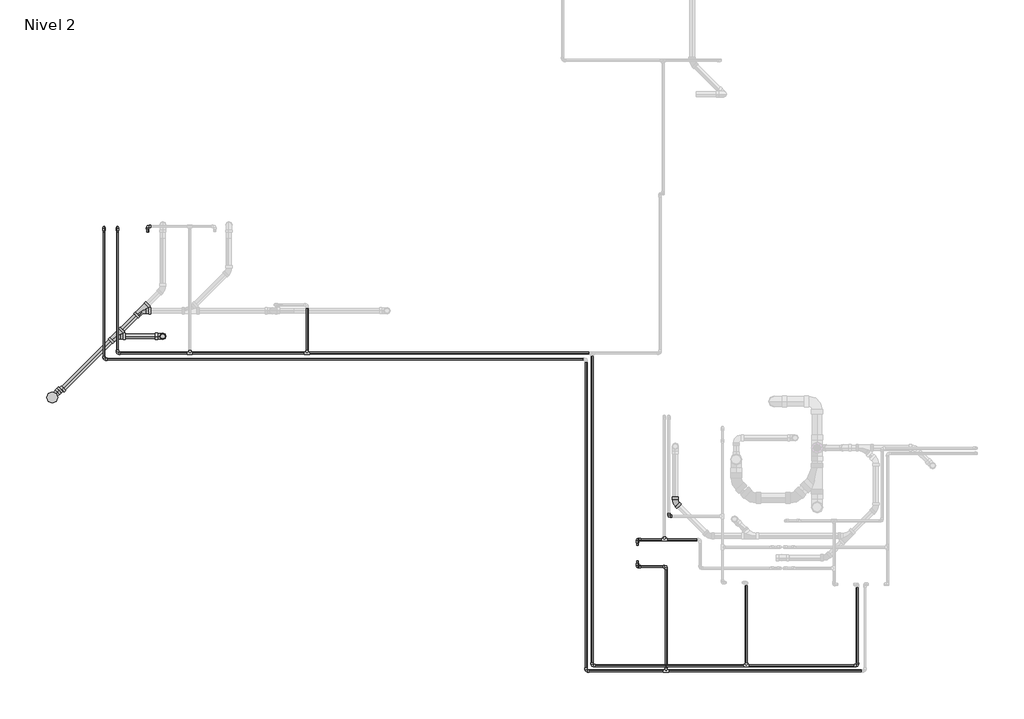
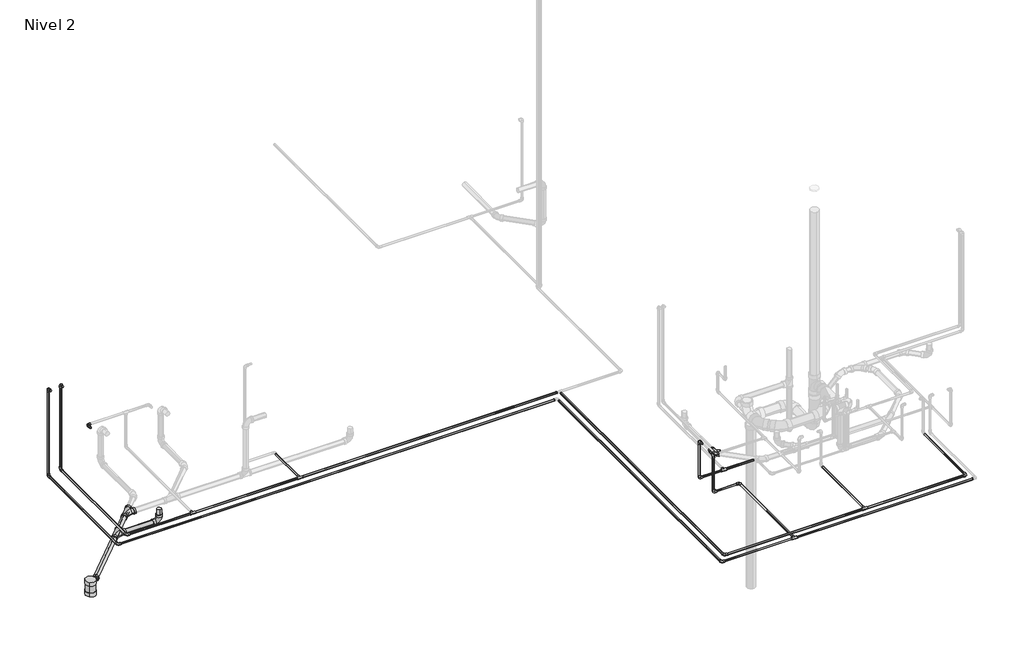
# One storey, part 1 of 9: 32 pipe segments, 27 pipe fittings.
"""IFC4 building model written with IfcOpenShell, lengths in millimetres."""

from ifc_helpers import new_model, si_unit, point, frame, frame_2d, origin, place, context, project, spatial, circle_curve, trimmed, segment, composite_curve, outline, extrude, transform, mapped, element, save
from components import pipe_fitting_ab418b84, pipe_fitting_0163322b, pipe_fitting_f7ed332b, m_codo_pvc_serie_40_9ad74631, m_codo_pvc_serie_40_dwv1_5c0ec739, m_codo_pvc_serie_40_dwv1_6f1a2495, m_reductor_pvc_serie_40_dwv1_ff30086d

model = new_model("IFC4")

# Units and contexts
model_context = context("Model", 3, world=origin())
ifc_project = project(units=[si_unit("LENGTHUNIT", "METRE", prefix="MILLI")], contexts=[model_context])

# Site, building, storey
site = spatial("IfcSite", under=ifc_project)
building = spatial("IfcBuilding", under=site)
storey = spatial("IfcBuildingStorey", under=building, Name="Nivel 2", Elevation=2800.0)

# Pipe fittings
placement = place(None, origin())
pipe_fitting_shape = pipe_fitting_ab418b84(model_context)
element("IfcPipeFitting", 1, ObjectType="M_Te - PVC - Serie 40 : Estándar", at=placement, inside=storey, context=model_context, shape_type="MappedRepresentation", body=[
    mapped(pipe_fitting_shape, transform((1725.1353284, 7617.0181394, 2750.0), x_axis=(1.0, 0.0, 0.0), y_axis=(0.0, -1.0, 0.0), z_axis=(0.0, 0.0, -1.0))),
])
element("IfcPipeFitting", 2, ObjectType="M_Te - PVC - Serie 40 : Estándar", at=placement, inside=storey, context=model_context, shape_type="MappedRepresentation", body=[
    mapped(pipe_fitting_shape, transform((411.6630441, 7617.0181394, 2750.0), x_axis=(1.0, 0.0, 0.0), y_axis=(0.0, -1.0, 0.0), z_axis=(0.0, 0.0, -1.0))),
])
element("IfcPipeFitting", 3, ObjectType="M_Te - PVC - Serie 40 : Estándar", at=placement, inside=storey, context=model_context, shape_type="MappedRepresentation", body=[
    mapped(pipe_fitting_shape, transform((6640.0882468, 4117.0181394, 2750.0), x_axis=(-1.0, 0.0, 0.0), y_axis=(0.0, -1.0, 0.0), z_axis=(0.0, 0.0, 1.0))),
])
element("IfcPipeFitting", 4, ObjectType="M_Te - PVC - Serie 40 : Estándar", at=placement, inside=storey, context=model_context, shape_type="MappedRepresentation", body=[
    mapped(pipe_fitting_shape, transform((5743.2442783, 4058.5261191, 2720.0), x_axis=(-1.0, 0.0, 0.0), y_axis=(0.0, -1.0, 0.0), z_axis=(0.0, 0.0, 1.0))),
])
element("IfcPipeFitting", 5, ObjectType="M_Te - PVC - Serie 40 : Estándar", at=placement, inside=storey, context=model_context, shape_type="MappedRepresentation", body=[
    mapped(pipe_fitting_shape, transform((5723.2442783, 5526.6215833, 2720.0), x_axis=(-1.0, 0.0, 0.0), y_axis=(0.0, -1.0, 0.0), z_axis=(0.0, 0.0, 1.0))),
])
pipe_fitting_2_shape = pipe_fitting_0163322b(model_context)
element("IfcPipeFitting", 6, ObjectType="M_Sanitario con te de reducción - PVC - Serie 40 - DWV : Estándar", at=placement, inside=storey, context=model_context, shape_type="MappedRepresentation", body=[
    mapped(pipe_fitting_2_shape, transform((-133.7971122, 8091.4220022, 2650.0), x_axis=(0.7071067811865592, 0.7071067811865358, 0.0), y_axis=(-0.7071067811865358, 0.7071067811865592, 0.0), z_axis=(0.0, 0.0, 1.0))),
])
element("IfcPipeFitting", 7, ObjectType="M_Sanitario con te de reducción - PVC - Serie 40 - DWV : Estándar", at=placement, inside=storey, context=model_context, shape_type="MappedRepresentation", body=[
    mapped(pipe_fitting_2_shape, transform((-420.2517933, 7804.9673212, 2650.0), x_axis=(0.707106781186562, 0.707106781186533, 0.0), y_axis=(-0.707106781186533, 0.707106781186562, 0.0), z_axis=(0.0, 0.0, 1.0))),
])
pipe_fitting_3_shape = pipe_fitting_f7ed332b(model_context)
element("IfcPipeFitting", 8, ObjectType="M_Sanitario con te de reducción - PVC - Serie 40 - DWV : Estándar", at=placement, inside=storey, context=model_context, shape_type="MappedRepresentation", body=[
    mapped(pipe_fitting_3_shape, transform((-1128.3876566, 7119.3043981, 2650.0), x_axis=(0.0, 0.0, 1.0), y_axis=(-0.7071067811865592, -0.7071067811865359, 0.0), z_axis=(0.7071067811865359, -0.7071067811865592, 0.0))),
])
m_codo_pvc_serie_40_shape = m_codo_pvc_serie_40_9ad74631(model_context)
element("IfcPipeFitting", 9, ObjectType="M_Codo - PVC - Serie 40 : Estándar", at=placement, inside=storey, context=model_context, shape_type="MappedRepresentation", body=[
    mapped(m_codo_pvc_serie_40_shape, transform((-397.4678009, 7617.0181394, 2750.0), x_axis=(0.0, -1.0, 0.0), y_axis=(1.0, 0.0, 0.0), z_axis=(0.0, 0.0, 1.0))),
])
element("IfcPipeFitting", 10, ObjectType="M_Codo - PVC - Serie 40 : Estándar", at=placement, inside=storey, context=model_context, shape_type="MappedRepresentation", body=[
    mapped(m_codo_pvc_serie_40_shape, transform((-58.7971122, 9037.0181394, 3200.0), x_axis=(-1.0, 0.0, 0.0), y_axis=(0.0, -1.0, 0.0), z_axis=(0.0, 0.0, 1.0))),
])
element("IfcPipeFitting", 11, ObjectType="M_Codo - PVC - Serie 40 : Estándar", at=placement, inside=storey, context=model_context, shape_type="MappedRepresentation", body=[
    mapped(m_codo_pvc_serie_40_shape, transform((4915.0072403, 4117.0181394, 2750.0), x_axis=(0.0, -1.0, 0.0), y_axis=(1.0, 0.0, 0.0), z_axis=(0.0, 0.0, 1.0))),
])
element("IfcPipeFitting", 12, ObjectType="M_Codo - PVC - Serie 40 : Estándar", at=placement, inside=storey, context=model_context, shape_type="MappedRepresentation", body=[
    mapped(m_codo_pvc_serie_40_shape, transform((7882.9224126, 4117.0181394, 2750.0), x_axis=(1.0, 0.0, 0.0), y_axis=(0.0, 1.0, 0.0), z_axis=(0.0, 0.0, 1.0))),
])
element("IfcPipeFitting", 13, ObjectType="M_Codo - PVC - Serie 40 : Estándar", at=placement, inside=storey, context=model_context, shape_type="MappedRepresentation", body=[
    mapped(m_codo_pvc_serie_40_shape, transform((5773.4849581, 5788.5620607, 2750.0), x_axis=(0.0, -1.0, 0.0), y_axis=(1.0, 0.0, 0.0), z_axis=(0.0, 0.0, 1.0))),
])
element("IfcPipeFitting", 14, ObjectType="M_Codo - PVC - Serie 40 : Estándar", at=placement, inside=storey, context=model_context, shape_type="MappedRepresentation", body=[
    mapped(m_codo_pvc_serie_40_shape, transform((4848.2736664, 4058.5261191, 2720.0), x_axis=(0.0, -1.0, 0.0), y_axis=(1.0, 0.0, 0.0), z_axis=(0.0, 0.0, 1.0))),
])
element("IfcPipeFitting", 15, ObjectType="M_Codo - PVC - Serie 40 : Estándar", at=placement, inside=storey, context=model_context, shape_type="MappedRepresentation", body=[
    mapped(m_codo_pvc_serie_40_shape, transform((5743.2442783, 5226.6215833, 2720.0), x_axis=(0.0, 1.0, 0.0), y_axis=(-1.0, 0.0, 0.0), z_axis=(0.0, 0.0, 1.0))),
])
element("IfcPipeFitting", 16, ObjectType="M_Codo - PVC - Serie 40 : Estándar", at=placement, inside=storey, context=model_context, shape_type="MappedRepresentation", body=[
    mapped(m_codo_pvc_serie_40_shape, transform((5423.2442783, 5226.6215833, 2720.0), x_axis=(-1.0, 0.0, 0.0), y_axis=(0.0, 0.0, 1.0), z_axis=(0.0, 1.0, 0.0))),
])
element("IfcPipeFitting", 17, ObjectType="M_Codo - PVC - Serie 40 : Estándar", at=placement, inside=storey, context=model_context, shape_type="MappedRepresentation", body=[
    mapped(m_codo_pvc_serie_40_shape, transform((5423.2442783, 5226.6215833, 3200.0), x_axis=(0.0, 0.0, 1.0), y_axis=(0.0, 1.0, 0.0), z_axis=(-1.0, 0.0, 0.0))),
])
element("IfcPipeFitting", 18, ObjectType="M_Codo - PVC - Serie 40 : Estándar", at=placement, inside=storey, context=model_context, shape_type="MappedRepresentation", body=[
    mapped(m_codo_pvc_serie_40_shape, transform((5423.2442783, 5526.6215833, 3200.0), x_axis=(0.0, 1.0, 0.0), y_axis=(0.0, 0.0, -1.0), z_axis=(-1.0, 0.0, 0.0))),
])
element("IfcPipeFitting", 19, ObjectType="M_Codo - PVC - Serie 40 : Estándar", at=placement, inside=storey, context=model_context, shape_type="MappedRepresentation", body=[
    mapped(m_codo_pvc_serie_40_shape, transform((5423.2442783, 5526.6215833, 2720.0), x_axis=(0.0, 0.0, -1.0), y_axis=(1.0, 0.0, 0.0), z_axis=(0.0, -1.0, 0.0))),
])
element("IfcPipeFitting", 20, ObjectType="M_Codo - PVC - Serie 40 : Estándar", at=placement, inside=storey, context=model_context, shape_type="MappedRepresentation", body=[
    mapped(m_codo_pvc_serie_40_shape, transform((-397.4678009, 9023.6516968, 3850.0), x_axis=(0.0, 1.0, 0.0), y_axis=(0.0, 0.0, -1.0), z_axis=(-1.0, 0.0, 0.0))),
])
element("IfcPipeFitting", 21, ObjectType="M_Codo - PVC - Serie 40 : Estándar", at=placement, inside=storey, context=model_context, shape_type="MappedRepresentation", body=[
    mapped(m_codo_pvc_serie_40_shape, transform((-547.4678009, 9023.6516968, 3850.0), x_axis=(0.0, 1.0, 0.0), y_axis=(0.0, 0.0, -1.0), z_axis=(-1.0, 0.0, 0.0))),
])
element("IfcPipeFitting", 22, ObjectType="M_Codo - PVC - Serie 40 : Estándar", at=placement, inside=storey, context=model_context, shape_type="MappedRepresentation", body=[
    mapped(m_codo_pvc_serie_40_shape, transform((-547.4678009, 9023.6516968, 2720.0), x_axis=(0.0, 0.0, -1.0), y_axis=(0.0, -1.0, 0.0), z_axis=(-1.0, 0.0, 0.0))),
])
element("IfcPipeFitting", 23, ObjectType="M_Codo - PVC - Serie 40 : Estándar", at=placement, inside=storey, context=model_context, shape_type="MappedRepresentation", body=[
    mapped(m_codo_pvc_serie_40_shape, transform((-547.4678009, 7548.5261191, 2720.0), x_axis=(0.0, -1.0, 0.0), y_axis=(1.0, 0.0, 0.0), z_axis=(0.0, 0.0, 1.0))),
])
element("IfcPipeFitting", 24, ObjectType="M_Codo - PVC - Serie 40 : Estándar", at=placement, inside=storey, context=model_context, shape_type="MappedRepresentation", body=[
    mapped(m_codo_pvc_serie_40_shape, transform((-397.4678009, 9023.6516968, 2750.0), x_axis=(0.0, 0.0, -1.0), y_axis=(0.0, -1.0, 0.0), z_axis=(-1.0, 0.0, 0.0))),
])
m_codo_pvc_serie_40_dwv1_shape = m_codo_pvc_serie_40_dwv1_5c0ec739(model_context)
element("IfcPipeFitting", 25, ObjectType="M_Codo - PVC - Serie 40 - DWV1 : Estándar 2", at=placement, inside=storey, context=model_context, shape_type="MappedRepresentation", body=[
    mapped(m_codo_pvc_serie_40_dwv1_shape, transform((109.5958692, 7804.9673212, 2650.0), x_axis=(1.0, 0.0, 0.0), y_axis=(0.0, 0.0, 1.0), z_axis=(0.0, -1.0, 0.0))),
])
m_codo_pvc_serie_40_dwv1_2_shape = m_codo_pvc_serie_40_dwv1_6f1a2495(model_context)
element("IfcPipeFitting", 26, ObjectType="M_Codo - PVC - Serie 40 - DWV1 : Estándar 2", at=placement, inside=storey, context=model_context, shape_type="MappedRepresentation", body=[
    mapped(m_codo_pvc_serie_40_dwv1_2_shape, transform((5845.3355737, 5944.0282832, 2650.0), x_axis=(0.0, -1.0, 0.0), y_axis=(1.0, 0.0, 0.0), z_axis=(0.0, 0.0, 1.0))),
])
m_reductor_pvc_serie_40_dwv1_shape = m_reductor_pvc_serie_40_dwv1_ff30086d(model_context)
element("IfcPipeFitting", 27, ObjectType="M_Reductor - PVC - Serie 40 - DWV1 : Estándar 2", at=placement, inside=storey, context=model_context, shape_type="MappedRepresentation", body=[
    mapped(m_reductor_pvc_serie_40_dwv1_shape, transform((-1051.5138579, 7196.1781968, 2650.0), x_axis=(0.7071067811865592, 0.7071067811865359, 0.0), y_axis=(-0.7071067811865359, 0.7071067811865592, 0.0), z_axis=(0.0, 0.0, 1.0))),
])

# Pipe segments
element("IfcPipeSegment", 28, ObjectType="Tuberia PVC Agua Fria", at=placement, inside=storey, context=model_context, shape_type="SweptSolid", body=[
    extrude(outline(composite_curve([segment(trimmed(circle_curve(frame_2d((2750.0, 1725.1353284)), 10.31875), [point((2750.0, 1735.4540784))], [point((2760.31875, 1725.1353284))], False, "CARTESIAN"), True, "CONTINUOUS"), segment(trimmed(circle_curve(frame_2d((2750.0, 1725.1353284)), 10.31875), [point((2760.31875, 1725.1353284))], [point((2750.0, 1714.8165784))], False, "CARTESIAN"), True, "CONTINUOUS"), segment(trimmed(circle_curve(frame_2d((2750.0, 1725.1353284)), 10.31875), [point((2750.0, 1714.8165784))], [point((2739.68125, 1725.1353284))], False, "CARTESIAN"), True, "CONTINUOUS"), segment(trimmed(circle_curve(frame_2d((2750.0, 1725.1353284)), 10.31875), [point((2739.68125, 1725.1353284))], [point((2750.0, 1735.4540784))], False, "CARTESIAN"), True, "CONTINUOUS")], self_intersect=False)), frame((0.0, 7647.4782956, 0.0), z_axis=(0.0, 1.0, 0.0), x_axis=(0.0, 0.0, 1.0)), (0.0, 0.0, 1.0), 476.1388438),
])
element("IfcPipeSegment", 29, ObjectType="Tuberia PVC Agua Fria", at=placement, inside=storey, context=model_context, shape_type="SweptSolid", body=[
    extrude(outline(composite_curve([segment(trimmed(circle_curve(frame_2d((7617.0181394, 2750.0)), 10.31875), [point((7627.3368894, 2750.0))], [point((7617.0181394, 2739.68125))], False, "CARTESIAN"), True, "CONTINUOUS"), segment(trimmed(circle_curve(frame_2d((7617.0181394, 2750.0)), 10.31875), [point((7617.0181394, 2739.68125))], [point((7606.6993894, 2750.0))], False, "CARTESIAN"), True, "CONTINUOUS"), segment(trimmed(circle_curve(frame_2d((7617.0181394, 2750.0)), 10.31875), [point((7606.6993894, 2750.0))], [point((7617.0181394, 2760.31875))], False, "CARTESIAN"), True, "CONTINUOUS"), segment(trimmed(circle_curve(frame_2d((7617.0181394, 2750.0)), 10.31875), [point((7617.0181394, 2760.31875))], [point((7627.3368894, 2750.0))], False, "CARTESIAN"), True, "CONTINUOUS")], self_intersect=False)), frame((1755.5954847, 0.0, 0.0), z_axis=(1.0, 0.0, 0.0), x_axis=(0.0, 1.0, 0.0)), (0.0, 0.0, 1.0), 3128.9515994),
])
element("IfcPipeSegment", 30, ObjectType="Tuberia PVC Agua Fria", at=placement, inside=storey, context=model_context, shape_type="SweptSolid", body=[
    extrude(outline(composite_curve([segment(trimmed(circle_curve(frame_2d((7617.0181394, 2750.0)), 10.31875), [point((7627.3368894, 2750.0))], [point((7617.0181394, 2739.68125))], False, "CARTESIAN"), True, "CONTINUOUS"), segment(trimmed(circle_curve(frame_2d((7617.0181394, 2750.0)), 10.31875), [point((7617.0181394, 2739.68125))], [point((7606.6993894, 2750.0))], False, "CARTESIAN"), True, "CONTINUOUS"), segment(trimmed(circle_curve(frame_2d((7617.0181394, 2750.0)), 10.31875), [point((7606.6993894, 2750.0))], [point((7617.0181394, 2760.31875))], False, "CARTESIAN"), True, "CONTINUOUS"), segment(trimmed(circle_curve(frame_2d((7617.0181394, 2750.0)), 10.31875), [point((7617.0181394, 2760.31875))], [point((7627.3368894, 2750.0))], False, "CARTESIAN"), True, "CONTINUOUS")], self_intersect=False)), frame((-364.0668009, 0.0, 0.0), z_axis=(1.0, 0.0, 0.0), x_axis=(0.0, 1.0, 0.0)), (0.0, 0.0, 1.0), 745.2696887),
])
element("IfcPipeSegment", 31, ObjectType="Tuberia PVC Agua Fria", at=placement, inside=storey, context=model_context, shape_type="SweptSolid", body=[
    extrude(outline(composite_curve([segment(trimmed(circle_curve(frame_2d((7617.0181394, 2750.0)), 10.31875), [point((7627.3368894, 2750.0))], [point((7617.0181394, 2739.68125))], False, "CARTESIAN"), True, "CONTINUOUS"), segment(trimmed(circle_curve(frame_2d((7617.0181394, 2750.0)), 10.31875), [point((7617.0181394, 2739.68125))], [point((7606.6993894, 2750.0))], False, "CARTESIAN"), True, "CONTINUOUS"), segment(trimmed(circle_curve(frame_2d((7617.0181394, 2750.0)), 10.31875), [point((7606.6993894, 2750.0))], [point((7617.0181394, 2760.31875))], False, "CARTESIAN"), True, "CONTINUOUS"), segment(trimmed(circle_curve(frame_2d((7617.0181394, 2750.0)), 10.31875), [point((7617.0181394, 2760.31875))], [point((7627.3368894, 2750.0))], False, "CARTESIAN"), True, "CONTINUOUS")], self_intersect=False)), frame((442.1232003, 0.0, 0.0), z_axis=(1.0, 0.0, 0.0), x_axis=(0.0, 1.0, 0.0)), (0.0, 0.0, 1.0), 1252.5519718),
])
element("IfcPipeSegment", 32, ObjectType="Tuberia PVC Agua Fria", at=placement, inside=storey, context=model_context, shape_type="SweptSolid", body=[
    extrude(outline(composite_curve([segment(trimmed(circle_curve(frame_2d((3200.0, -58.7971122)), 10.31875), [point((3200.0, -69.1158622))], [point((3189.68125, -58.7971122))], False, "CARTESIAN"), True, "CONTINUOUS"), segment(trimmed(circle_curve(frame_2d((3200.0, -58.7971122)), 10.31875), [point((3189.68125, -58.7971122))], [point((3200.0, -48.4783622))], False, "CARTESIAN"), True, "CONTINUOUS"), segment(trimmed(circle_curve(frame_2d((3200.0, -58.7971122)), 10.31875), [point((3200.0, -48.4783622))], [point((3210.31875, -58.7971122))], False, "CARTESIAN"), True, "CONTINUOUS"), segment(trimmed(circle_curve(frame_2d((3200.0, -58.7971122)), 10.31875), [point((3210.31875, -58.7971122))], [point((3200.0, -69.1158622))], False, "CARTESIAN"), True, "CONTINUOUS")], self_intersect=False)), frame((0.0, 8972.0181394, 0.0), z_axis=(0.0, 1.0, 0.0), x_axis=(0.0, 0.0, 1.0)), (0.0, 0.0, 1.0), 31.599),
])
element("IfcPipeSegment", 33, ObjectType="Tuberia PVC Agua Fria", at=placement, inside=storey, context=model_context, shape_type="SweptSolid", body=[
    extrude(outline(composite_curve([segment(trimmed(circle_curve(frame_2d((2750.0, 4915.0072403)), 10.31875), [point((2750.0, 4904.6884903))], [point((2739.68125, 4915.0072403))], False, "CARTESIAN"), True, "CONTINUOUS"), segment(trimmed(circle_curve(frame_2d((2750.0, 4915.0072403)), 10.31875), [point((2739.68125, 4915.0072403))], [point((2750.0, 4925.3259903))], False, "CARTESIAN"), True, "CONTINUOUS"), segment(trimmed(circle_curve(frame_2d((2750.0, 4915.0072403)), 10.31875), [point((2750.0, 4925.3259903))], [point((2760.31875, 4915.0072403))], False, "CARTESIAN"), True, "CONTINUOUS"), segment(trimmed(circle_curve(frame_2d((2750.0, 4915.0072403)), 10.31875), [point((2760.31875, 4915.0072403))], [point((2750.0, 4904.6884903))], False, "CARTESIAN"), True, "CONTINUOUS")], self_intersect=False)), frame((0.0, 4150.4191394, 0.0), z_axis=(0.0, 1.0, 0.0), x_axis=(0.0, 0.0, 1.0)), (0.0, 0.0, 1.0), 3436.1388437),
])
element("IfcPipeSegment", 34, ObjectType="Tuberia PVC Agua Fria", at=placement, inside=storey, context=model_context, shape_type="SweptSolid", body=[
    extrude(outline(composite_curve([segment(trimmed(circle_curve(frame_2d((4117.0181394, 2750.0)), 10.31875), [point((4127.3368894, 2750.0))], [point((4117.0181394, 2739.68125))], False, "CARTESIAN"), True, "CONTINUOUS"), segment(trimmed(circle_curve(frame_2d((4117.0181394, 2750.0)), 10.31875), [point((4117.0181394, 2739.68125))], [point((4106.6993894, 2750.0))], False, "CARTESIAN"), True, "CONTINUOUS"), segment(trimmed(circle_curve(frame_2d((4117.0181394, 2750.0)), 10.31875), [point((4106.6993894, 2750.0))], [point((4117.0181394, 2760.31875))], False, "CARTESIAN"), True, "CONTINUOUS"), segment(trimmed(circle_curve(frame_2d((4117.0181394, 2750.0)), 10.31875), [point((4117.0181394, 2760.31875))], [point((4127.3368894, 2750.0))], False, "CARTESIAN"), True, "CONTINUOUS")], self_intersect=False)), frame((6670.5484031, 0.0, 0.0), z_axis=(1.0, 0.0, 0.0), x_axis=(0.0, 1.0, 0.0)), (0.0, 0.0, 1.0), 1178.9730095),
])
element("IfcPipeSegment", 35, ObjectType="Tuberia PVC Agua Fria", at=placement, inside=storey, context=model_context, shape_type="SweptSolid", body=[
    extrude(outline(composite_curve([segment(trimmed(circle_curve(frame_2d((2750.0, 6640.0882468)), 10.31875), [point((2750.0, 6650.4069968))], [point((2760.31875, 6640.0882468))], False, "CARTESIAN"), True, "CONTINUOUS"), segment(trimmed(circle_curve(frame_2d((2750.0, 6640.0882468)), 10.31875), [point((2760.31875, 6640.0882468))], [point((2750.0, 6629.7694968))], False, "CARTESIAN"), True, "CONTINUOUS"), segment(trimmed(circle_curve(frame_2d((2750.0, 6640.0882468)), 10.31875), [point((2750.0, 6629.7694968))], [point((2739.68125, 6640.0882468))], False, "CARTESIAN"), True, "CONTINUOUS"), segment(trimmed(circle_curve(frame_2d((2750.0, 6640.0882468)), 10.31875), [point((2739.68125, 6640.0882468))], [point((2750.0, 6650.4069968))], False, "CARTESIAN"), True, "CONTINUOUS")], self_intersect=False)), frame((0.0, 4147.4782956, 0.0), z_axis=(0.0, 1.0, 0.0), x_axis=(0.0, 0.0, 1.0)), (0.0, 0.0, 1.0), 866.1388437),
])
element("IfcPipeSegment", 36, ObjectType="Tuberia PVC Agua Fria", at=placement, inside=storey, context=model_context, shape_type="SweptSolid", body=[
    extrude(outline(composite_curve([segment(trimmed(circle_curve(frame_2d((4117.0181394, 2750.0)), 10.31875), [point((4106.6993894, 2750.0))], [point((4117.0181394, 2760.31875))], False, "CARTESIAN"), True, "CONTINUOUS"), segment(trimmed(circle_curve(frame_2d((4117.0181394, 2750.0)), 10.31875), [point((4117.0181394, 2760.31875))], [point((4127.3368894, 2750.0))], False, "CARTESIAN"), True, "CONTINUOUS"), segment(trimmed(circle_curve(frame_2d((4117.0181394, 2750.0)), 10.31875), [point((4127.3368894, 2750.0))], [point((4117.0181394, 2739.68125))], False, "CARTESIAN"), True, "CONTINUOUS"), segment(trimmed(circle_curve(frame_2d((4117.0181394, 2750.0)), 10.31875), [point((4117.0181394, 2739.68125))], [point((4106.6993894, 2750.0))], False, "CARTESIAN"), True, "CONTINUOUS")], self_intersect=False)), frame((4948.4082403, 0.0, 0.0), z_axis=(1.0, 0.0, 0.0), x_axis=(0.0, 1.0, 0.0)), (0.0, 0.0, 1.0), 1661.2198503),
])
element("IfcPipeSegment", 37, ObjectType="Tuberia PVC Agua Fria", at=placement, inside=storey, context=model_context, shape_type="SweptSolid", body=[
    extrude(outline(composite_curve([segment(trimmed(circle_curve(frame_2d((2750.0, 7882.9224126)), 10.31875), [point((2750.0, 7872.6036626))], [point((2739.68125, 7882.9224126))], False, "CARTESIAN"), True, "CONTINUOUS"), segment(trimmed(circle_curve(frame_2d((2750.0, 7882.9224126)), 10.31875), [point((2739.68125, 7882.9224126))], [point((2750.0, 7893.2411626))], False, "CARTESIAN"), True, "CONTINUOUS"), segment(trimmed(circle_curve(frame_2d((2750.0, 7882.9224126)), 10.31875), [point((2750.0, 7893.2411626))], [point((2760.31875, 7882.9224126))], False, "CARTESIAN"), True, "CONTINUOUS"), segment(trimmed(circle_curve(frame_2d((2750.0, 7882.9224126)), 10.31875), [point((2760.31875, 7882.9224126))], [point((2750.0, 7872.6036626))], False, "CARTESIAN"), True, "CONTINUOUS")], self_intersect=False)), frame((0.0, 4150.4191394, 0.0), z_axis=(0.0, 1.0, 0.0), x_axis=(0.0, 0.0, 1.0)), (0.0, 0.0, 1.0), 842.801444),
])
element("IfcPipeSegment", 38, ObjectType="Tuberia PVC Agua Fria", at=placement, inside=storey, context=model_context, shape_type="SweptSolid", body=[
    extrude(outline(composite_curve([segment(trimmed(circle_curve(frame_2d((3850.0, -397.4678009)), 10.31875), [point((3850.0, -387.1490509))], [point((3860.31875, -397.4678009))], False, "CARTESIAN"), True, "CONTINUOUS"), segment(trimmed(circle_curve(frame_2d((3850.0, -397.4678009)), 10.31875), [point((3860.31875, -397.4678009))], [point((3850.0, -407.7865509))], False, "CARTESIAN"), True, "CONTINUOUS"), segment(trimmed(circle_curve(frame_2d((3850.0, -397.4678009)), 10.31875), [point((3850.0, -407.7865509))], [point((3839.68125, -397.4678009))], False, "CARTESIAN"), True, "CONTINUOUS"), segment(trimmed(circle_curve(frame_2d((3850.0, -397.4678009)), 10.31875), [point((3839.68125, -397.4678009))], [point((3850.0, -387.1490509))], False, "CARTESIAN"), True, "CONTINUOUS")], self_intersect=False)), frame((0.0, 8973.6516968, 0.0), z_axis=(0.0, 1.0, 0.0), x_axis=(0.0, 0.0, 1.0)), (0.0, 0.0, 1.0), 16.599),
])
element("IfcPipeSegment", 39, ObjectType="Tuberia PVC Agua Fria", at=placement, inside=storey, context=model_context, shape_type="SweptSolid", body=[
    extrude(outline(composite_curve([segment(trimmed(circle_curve(frame_2d((2750.0, -397.4678009)), 10.31875), [point((2750.0, -387.1490509))], [point((2760.31875, -397.4678009))], False, "CARTESIAN"), True, "CONTINUOUS"), segment(trimmed(circle_curve(frame_2d((2750.0, -397.4678009)), 10.31875), [point((2760.31875, -397.4678009))], [point((2750.0, -407.7865509))], False, "CARTESIAN"), True, "CONTINUOUS"), segment(trimmed(circle_curve(frame_2d((2750.0, -397.4678009)), 10.31875), [point((2750.0, -407.7865509))], [point((2739.68125, -397.4678009))], False, "CARTESIAN"), True, "CONTINUOUS"), segment(trimmed(circle_curve(frame_2d((2750.0, -397.4678009)), 10.31875), [point((2739.68125, -397.4678009))], [point((2750.0, -387.1490509))], False, "CARTESIAN"), True, "CONTINUOUS")], self_intersect=False)), frame((0.0, 7650.4191394, 0.0), z_axis=(0.0, 1.0, 0.0), x_axis=(0.0, 0.0, 1.0)), (0.0, 0.0, 1.0), 1339.8315575),
])
element("IfcPipeSegment", 40, ObjectType="Tuberia PVC Agua Fria", at=placement, inside=storey, context=model_context, shape_type="SweptSolid", body=[
    extrude(outline(composite_curve([segment(trimmed(circle_curve(frame_2d((-397.4678009, 9023.6516968)), 10.31875), [point((-387.1490509, 9023.6516968))], [point((-397.4678009, 9013.3329468))], False, "CARTESIAN"), True, "CONTINUOUS"), segment(trimmed(circle_curve(frame_2d((-397.4678009, 9023.6516968)), 10.31875), [point((-397.4678009, 9013.3329468))], [point((-407.7865509, 9023.6516968))], False, "CARTESIAN"), True, "CONTINUOUS"), segment(trimmed(circle_curve(frame_2d((-397.4678009, 9023.6516968)), 10.31875), [point((-407.7865509, 9023.6516968))], [point((-397.4678009, 9033.9704468))], False, "CARTESIAN"), True, "CONTINUOUS"), segment(trimmed(circle_curve(frame_2d((-397.4678009, 9023.6516968)), 10.31875), [point((-397.4678009, 9033.9704468))], [point((-387.1490509, 9023.6516968))], False, "CARTESIAN"), True, "CONTINUOUS")], self_intersect=False)), frame((0.0, 0.0, 2783.401), z_axis=(0.0, 0.0, 1.0), x_axis=(1.0, 0.0, 0.0)), (0.0, 0.0, 1.0), 1033.198),
])
element("IfcPipeSegment", 41, ObjectType="Tuberia PVC Agua Caliente", at=placement, inside=storey, context=model_context, shape_type="SweptSolid", body=[
    extrude(outline(composite_curve([segment(trimmed(circle_curve(frame_2d((7548.5261191, 2720.0)), 10.31875), [point((7538.2073691, 2720.0))], [point((7548.5261191, 2730.31875))], False, "CARTESIAN"), True, "CONTINUOUS"), segment(trimmed(circle_curve(frame_2d((7548.5261191, 2720.0)), 10.31875), [point((7548.5261191, 2730.31875))], [point((7558.8448691, 2720.0))], False, "CARTESIAN"), True, "CONTINUOUS"), segment(trimmed(circle_curve(frame_2d((7548.5261191, 2720.0)), 10.31875), [point((7558.8448691, 2720.0))], [point((7548.5261191, 2709.68125))], False, "CARTESIAN"), True, "CONTINUOUS"), segment(trimmed(circle_curve(frame_2d((7548.5261191, 2720.0)), 10.31875), [point((7548.5261191, 2709.68125))], [point((7538.2073691, 2720.0))], False, "CARTESIAN"), True, "CONTINUOUS")], self_intersect=False)), frame((-514.0668009, 0.0, 0.0), z_axis=(1.0, 0.0, 0.0), x_axis=(0.0, 1.0, 0.0)), (0.0, 0.0, 1.0), 5328.9394673),
])
element("IfcPipeSegment", 42, ObjectType="Tuberia PVC Agua Caliente", at=placement, inside=storey, context=model_context, shape_type="SweptSolid", body=[
    extrude(outline(composite_curve([segment(trimmed(circle_curve(frame_2d((2720.0, 4848.2736664)), 10.31875), [point((2720.0, 4837.9549164))], [point((2709.68125, 4848.2736664))], False, "CARTESIAN"), True, "CONTINUOUS"), segment(trimmed(circle_curve(frame_2d((2720.0, 4848.2736664)), 10.31875), [point((2709.68125, 4848.2736664))], [point((2720.0, 4858.5924164))], False, "CARTESIAN"), True, "CONTINUOUS"), segment(trimmed(circle_curve(frame_2d((2720.0, 4848.2736664)), 10.31875), [point((2720.0, 4858.5924164))], [point((2730.31875, 4848.2736664))], False, "CARTESIAN"), True, "CONTINUOUS"), segment(trimmed(circle_curve(frame_2d((2720.0, 4848.2736664)), 10.31875), [point((2730.31875, 4848.2736664))], [point((2720.0, 4837.9549164))], False, "CARTESIAN"), True, "CONTINUOUS")], self_intersect=False)), frame((0.0, 4091.9271191, 0.0), z_axis=(0.0, 1.0, 0.0), x_axis=(0.0, 0.0, 1.0)), (0.0, 0.0, 1.0), 3423.198),
])
element("IfcPipeSegment", 43, ObjectType="Tuberia PVC Agua Caliente", at=placement, inside=storey, context=model_context, shape_type="SweptSolid", body=[
    extrude(outline(composite_curve([segment(trimmed(circle_curve(frame_2d((4058.5261191, 2720.0)), 10.31875), [point((4048.2073691, 2720.0))], [point((4058.5261191, 2730.31875))], False, "CARTESIAN"), True, "CONTINUOUS"), segment(trimmed(circle_curve(frame_2d((4058.5261191, 2720.0)), 10.31875), [point((4058.5261191, 2730.31875))], [point((4068.8448691, 2720.0))], False, "CARTESIAN"), True, "CONTINUOUS"), segment(trimmed(circle_curve(frame_2d((4058.5261191, 2720.0)), 10.31875), [point((4068.8448691, 2720.0))], [point((4058.5261191, 2709.68125))], False, "CARTESIAN"), True, "CONTINUOUS"), segment(trimmed(circle_curve(frame_2d((4058.5261191, 2720.0)), 10.31875), [point((4058.5261191, 2709.68125))], [point((4048.2073691, 2720.0))], False, "CARTESIAN"), True, "CONTINUOUS")], self_intersect=False)), frame((5773.7044346, 0.0, 0.0), z_axis=(1.0, 0.0, 0.0), x_axis=(0.0, 1.0, 0.0)), (0.0, 0.0, 1.0), 2161.1682318),
])
element("IfcPipeSegment", 44, ObjectType="Tuberia PVC Agua Caliente", at=placement, inside=storey, context=model_context, shape_type="SweptSolid", body=[
    extrude(outline(composite_curve([segment(trimmed(circle_curve(frame_2d((2720.0, 5743.2442783)), 10.31875), [point((2720.0, 5753.5630283))], [point((2730.31875, 5743.2442783))], False, "CARTESIAN"), True, "CONTINUOUS"), segment(trimmed(circle_curve(frame_2d((2720.0, 5743.2442783)), 10.31875), [point((2730.31875, 5743.2442783))], [point((2720.0, 5732.9255283))], False, "CARTESIAN"), True, "CONTINUOUS"), segment(trimmed(circle_curve(frame_2d((2720.0, 5743.2442783)), 10.31875), [point((2720.0, 5732.9255283))], [point((2709.68125, 5743.2442783))], False, "CARTESIAN"), True, "CONTINUOUS"), segment(trimmed(circle_curve(frame_2d((2720.0, 5743.2442783)), 10.31875), [point((2709.68125, 5743.2442783))], [point((2720.0, 5753.5630283))], False, "CARTESIAN"), True, "CONTINUOUS")], self_intersect=False)), frame((0.0, 4088.9862753, 0.0), z_axis=(0.0, 1.0, 0.0), x_axis=(0.0, 0.0, 1.0)), (0.0, 0.0, 1.0), 1104.234308),
])
element("IfcPipeSegment", 45, ObjectType="Tuberia PVC Agua Caliente", at=placement, inside=storey, context=model_context, shape_type="SweptSolid", body=[
    extrude(outline(composite_curve([segment(trimmed(circle_curve(frame_2d((4058.5261191, 2720.0)), 10.31875), [point((4048.2073691, 2720.0))], [point((4058.5261191, 2730.31875))], False, "CARTESIAN"), True, "CONTINUOUS"), segment(trimmed(circle_curve(frame_2d((4058.5261191, 2720.0)), 10.31875), [point((4058.5261191, 2730.31875))], [point((4068.8448691, 2720.0))], False, "CARTESIAN"), True, "CONTINUOUS"), segment(trimmed(circle_curve(frame_2d((4058.5261191, 2720.0)), 10.31875), [point((4068.8448691, 2720.0))], [point((4058.5261191, 2709.68125))], False, "CARTESIAN"), True, "CONTINUOUS"), segment(trimmed(circle_curve(frame_2d((4058.5261191, 2720.0)), 10.31875), [point((4058.5261191, 2709.68125))], [point((4048.2073691, 2720.0))], False, "CARTESIAN"), True, "CONTINUOUS")], self_intersect=False)), frame((4881.6746664, 0.0, 0.0), z_axis=(1.0, 0.0, 0.0), x_axis=(0.0, 1.0, 0.0)), (0.0, 0.0, 1.0), 831.1094557),
])
element("IfcPipeSegment", 46, ObjectType="Tuberia PVC Agua Caliente", at=placement, inside=storey, context=model_context, shape_type="SweptSolid", body=[
    extrude(outline(composite_curve([segment(trimmed(circle_curve(frame_2d((5226.6215833, 2720.0)), 10.31875), [point((5236.9403333, 2720.0))], [point((5226.6215833, 2709.68125))], False, "CARTESIAN"), True, "CONTINUOUS"), segment(trimmed(circle_curve(frame_2d((5226.6215833, 2720.0)), 10.31875), [point((5226.6215833, 2709.68125))], [point((5216.3028333, 2720.0))], False, "CARTESIAN"), True, "CONTINUOUS"), segment(trimmed(circle_curve(frame_2d((5226.6215833, 2720.0)), 10.31875), [point((5216.3028333, 2720.0))], [point((5226.6215833, 2730.31875))], False, "CARTESIAN"), True, "CONTINUOUS"), segment(trimmed(circle_curve(frame_2d((5226.6215833, 2720.0)), 10.31875), [point((5226.6215833, 2730.31875))], [point((5236.9403333, 2720.0))], False, "CARTESIAN"), True, "CONTINUOUS")], self_intersect=False)), frame((5456.6452783, 0.0, 0.0), z_axis=(1.0, 0.0, 0.0), x_axis=(0.0, 1.0, 0.0)), (0.0, 0.0, 1.0), 253.198),
])
element("IfcPipeSegment", 47, ObjectType="Tuberia PVC Agua Caliente", at=placement, inside=storey, context=model_context, shape_type="SweptSolid", body=[
    extrude(outline(composite_curve([segment(trimmed(circle_curve(frame_2d((3200.0, 5423.2442783)), 10.31875), [point((3200.0, 5433.5630283))], [point((3210.31875, 5423.2442783))], False, "CARTESIAN"), True, "CONTINUOUS"), segment(trimmed(circle_curve(frame_2d((3200.0, 5423.2442783)), 10.31875), [point((3210.31875, 5423.2442783))], [point((3200.0, 5412.9255283))], False, "CARTESIAN"), True, "CONTINUOUS"), segment(trimmed(circle_curve(frame_2d((3200.0, 5423.2442783)), 10.31875), [point((3200.0, 5412.9255283))], [point((3189.68125, 5423.2442783))], False, "CARTESIAN"), True, "CONTINUOUS"), segment(trimmed(circle_curve(frame_2d((3200.0, 5423.2442783)), 10.31875), [point((3189.68125, 5423.2442783))], [point((3200.0, 5433.5630283))], False, "CARTESIAN"), True, "CONTINUOUS")], self_intersect=False)), frame((0.0, 5465.6215833, 0.0), z_axis=(0.0, 1.0, 0.0), x_axis=(0.0, 0.0, 1.0)), (0.0, 0.0, 1.0), 27.599),
])
element("IfcPipeSegment", 48, ObjectType="Tuberia PVC Agua Caliente", at=placement, inside=storey, context=model_context, shape_type="SweptSolid", body=[
    extrude(outline(composite_curve([segment(trimmed(circle_curve(frame_2d((5423.2442783, 5226.6215833)), 10.31875), [point((5412.9255283, 5226.6215833))], [point((5423.2442783, 5236.9403333))], False, "CARTESIAN"), True, "CONTINUOUS"), segment(trimmed(circle_curve(frame_2d((5423.2442783, 5226.6215833)), 10.31875), [point((5423.2442783, 5236.9403333))], [point((5433.5630283, 5226.6215833))], False, "CARTESIAN"), True, "CONTINUOUS"), segment(trimmed(circle_curve(frame_2d((5423.2442783, 5226.6215833)), 10.31875), [point((5433.5630283, 5226.6215833))], [point((5423.2442783, 5216.3028333))], False, "CARTESIAN"), True, "CONTINUOUS"), segment(trimmed(circle_curve(frame_2d((5423.2442783, 5226.6215833)), 10.31875), [point((5423.2442783, 5216.3028333))], [point((5412.9255283, 5226.6215833))], False, "CARTESIAN"), True, "CONTINUOUS")], self_intersect=False)), frame((0.0, 0.0, 2753.401), z_axis=(0.0, 0.0, 1.0), x_axis=(1.0, 0.0, 0.0)), (0.0, 0.0, 1.0), 413.198),
])
element("IfcPipeSegment", 49, ObjectType="Tuberia PVC Agua Caliente", at=placement, inside=storey, context=model_context, shape_type="SweptSolid", body=[
    extrude(outline(composite_curve([segment(trimmed(circle_curve(frame_2d((5423.2442783, 5526.6215833)), 10.31875), [point((5433.5630283, 5526.6215833))], [point((5423.2442783, 5516.3028333))], False, "CARTESIAN"), True, "CONTINUOUS"), segment(trimmed(circle_curve(frame_2d((5423.2442783, 5526.6215833)), 10.31875), [point((5423.2442783, 5516.3028333))], [point((5412.9255283, 5526.6215833))], False, "CARTESIAN"), True, "CONTINUOUS"), segment(trimmed(circle_curve(frame_2d((5423.2442783, 5526.6215833)), 10.31875), [point((5412.9255283, 5526.6215833))], [point((5423.2442783, 5536.9403333))], False, "CARTESIAN"), True, "CONTINUOUS"), segment(trimmed(circle_curve(frame_2d((5423.2442783, 5526.6215833)), 10.31875), [point((5423.2442783, 5536.9403333))], [point((5433.5630283, 5526.6215833))], False, "CARTESIAN"), True, "CONTINUOUS")], self_intersect=False)), frame((0.0, 0.0, 2753.401), z_axis=(0.0, 0.0, 1.0), x_axis=(1.0, 0.0, 0.0)), (0.0, 0.0, 1.0), 413.198),
])
element("IfcPipeSegment", 50, ObjectType="Tuberia PVC Agua Caliente", at=placement, inside=storey, context=model_context, shape_type="SweptSolid", body=[
    extrude(outline(composite_curve([segment(trimmed(circle_curve(frame_2d((5526.6215833, 2720.0)), 10.31875), [point((5516.3028333, 2720.0))], [point((5526.6215833, 2730.31875))], False, "CARTESIAN"), True, "CONTINUOUS"), segment(trimmed(circle_curve(frame_2d((5526.6215833, 2720.0)), 10.31875), [point((5526.6215833, 2730.31875))], [point((5536.9403333, 2720.0))], False, "CARTESIAN"), True, "CONTINUOUS"), segment(trimmed(circle_curve(frame_2d((5526.6215833, 2720.0)), 10.31875), [point((5536.9403333, 2720.0))], [point((5526.6215833, 2709.68125))], False, "CARTESIAN"), True, "CONTINUOUS"), segment(trimmed(circle_curve(frame_2d((5526.6215833, 2720.0)), 10.31875), [point((5526.6215833, 2709.68125))], [point((5516.3028333, 2720.0))], False, "CARTESIAN"), True, "CONTINUOUS")], self_intersect=False)), frame((5753.7044346, 0.0, 0.0), z_axis=(1.0, 0.0, 0.0), x_axis=(0.0, 1.0, 0.0)), (0.0, 0.0, 1.0), 336.1388438),
])
element("IfcPipeSegment", 51, ObjectType="Tuberia PVC Agua Caliente", at=placement, inside=storey, context=model_context, shape_type="SweptSolid", body=[
    extrude(outline(composite_curve([segment(trimmed(circle_curve(frame_2d((5526.6215833, 2720.0)), 10.31875), [point((5516.3028333, 2720.0))], [point((5526.6215833, 2730.31875))], False, "CARTESIAN"), True, "CONTINUOUS"), segment(trimmed(circle_curve(frame_2d((5526.6215833, 2720.0)), 10.31875), [point((5526.6215833, 2730.31875))], [point((5536.9403333, 2720.0))], False, "CARTESIAN"), True, "CONTINUOUS"), segment(trimmed(circle_curve(frame_2d((5526.6215833, 2720.0)), 10.31875), [point((5536.9403333, 2720.0))], [point((5526.6215833, 2709.68125))], False, "CARTESIAN"), True, "CONTINUOUS"), segment(trimmed(circle_curve(frame_2d((5526.6215833, 2720.0)), 10.31875), [point((5526.6215833, 2709.68125))], [point((5516.3028333, 2720.0))], False, "CARTESIAN"), True, "CONTINUOUS")], self_intersect=False)), frame((5456.6452783, 0.0, 0.0), z_axis=(1.0, 0.0, 0.0), x_axis=(0.0, 1.0, 0.0)), (0.0, 0.0, 1.0), 236.1388438),
])
element("IfcPipeSegment", 52, ObjectType="Tuberia PVC Agua Caliente", at=placement, inside=storey, context=model_context, shape_type="SweptSolid", body=[
    extrude(outline(composite_curve([segment(trimmed(circle_curve(frame_2d((3200.0, 5423.2442783)), 10.31875), [point((3200.0, 5433.5630283))], [point((3210.31875, 5423.2442783))], False, "CARTESIAN"), True, "CONTINUOUS"), segment(trimmed(circle_curve(frame_2d((3200.0, 5423.2442783)), 10.31875), [point((3210.31875, 5423.2442783))], [point((3200.0, 5412.9255283))], False, "CARTESIAN"), True, "CONTINUOUS"), segment(trimmed(circle_curve(frame_2d((3200.0, 5423.2442783)), 10.31875), [point((3200.0, 5412.9255283))], [point((3189.68125, 5423.2442783))], False, "CARTESIAN"), True, "CONTINUOUS"), segment(trimmed(circle_curve(frame_2d((3200.0, 5423.2442783)), 10.31875), [point((3189.68125, 5423.2442783))], [point((3200.0, 5433.5630283))], False, "CARTESIAN"), True, "CONTINUOUS")], self_intersect=False)), frame((0.0, 5260.0225833, 0.0), z_axis=(0.0, 1.0, 0.0), x_axis=(0.0, 0.0, 1.0)), (0.0, 0.0, 1.0), 27.599),
])
element("IfcPipeSegment", 53, ObjectType="Tuberia PVC Agua Caliente", at=placement, inside=storey, context=model_context, shape_type="SweptSolid", body=[
    extrude(outline(composite_curve([segment(trimmed(circle_curve(frame_2d((2720.0, -547.4678009)), 10.31875), [point((2720.0, -557.7865509))], [point((2709.68125, -547.4678009))], False, "CARTESIAN"), True, "CONTINUOUS"), segment(trimmed(circle_curve(frame_2d((2720.0, -547.4678009)), 10.31875), [point((2709.68125, -547.4678009))], [point((2720.0, -537.1490509))], False, "CARTESIAN"), True, "CONTINUOUS"), segment(trimmed(circle_curve(frame_2d((2720.0, -547.4678009)), 10.31875), [point((2720.0, -537.1490509))], [point((2730.31875, -547.4678009))], False, "CARTESIAN"), True, "CONTINUOUS"), segment(trimmed(circle_curve(frame_2d((2720.0, -547.4678009)), 10.31875), [point((2730.31875, -547.4678009))], [point((2720.0, -557.7865509))], False, "CARTESIAN"), True, "CONTINUOUS")], self_intersect=False)), frame((0.0, 7581.9271191, 0.0), z_axis=(0.0, 1.0, 0.0), x_axis=(0.0, 0.0, 1.0)), (0.0, 0.0, 1.0), 1408.3235778),
])
element("IfcPipeSegment", 54, ObjectType="Tuberia PVC Agua Caliente", at=placement, inside=storey, context=model_context, shape_type="SweptSolid", body=[
    extrude(outline(composite_curve([segment(trimmed(circle_curve(frame_2d((3850.0, -547.4678009)), 10.31875), [point((3850.0, -537.1490509))], [point((3860.31875, -547.4678009))], False, "CARTESIAN"), True, "CONTINUOUS"), segment(trimmed(circle_curve(frame_2d((3850.0, -547.4678009)), 10.31875), [point((3860.31875, -547.4678009))], [point((3850.0, -557.7865509))], False, "CARTESIAN"), True, "CONTINUOUS"), segment(trimmed(circle_curve(frame_2d((3850.0, -547.4678009)), 10.31875), [point((3850.0, -557.7865509))], [point((3839.68125, -547.4678009))], False, "CARTESIAN"), True, "CONTINUOUS"), segment(trimmed(circle_curve(frame_2d((3850.0, -547.4678009)), 10.31875), [point((3839.68125, -547.4678009))], [point((3850.0, -537.1490509))], False, "CARTESIAN"), True, "CONTINUOUS")], self_intersect=False)), frame((0.0, 8973.6516968, 0.0), z_axis=(0.0, 1.0, 0.0), x_axis=(0.0, 0.0, 1.0)), (0.0, 0.0, 1.0), 16.599),
])
element("IfcPipeSegment", 55, ObjectType="Tuberia PVC Agua Caliente", at=placement, inside=storey, context=model_context, shape_type="SweptSolid", body=[
    extrude(outline(composite_curve([segment(trimmed(circle_curve(frame_2d((-547.4678009, 9023.6516968)), 10.31875), [point((-537.1490509, 9023.6516968))], [point((-547.4678009, 9013.3329468))], False, "CARTESIAN"), True, "CONTINUOUS"), segment(trimmed(circle_curve(frame_2d((-547.4678009, 9023.6516968)), 10.31875), [point((-547.4678009, 9013.3329468))], [point((-557.7865509, 9023.6516968))], False, "CARTESIAN"), True, "CONTINUOUS"), segment(trimmed(circle_curve(frame_2d((-547.4678009, 9023.6516968)), 10.31875), [point((-557.7865509, 9023.6516968))], [point((-547.4678009, 9033.9704468))], False, "CARTESIAN"), True, "CONTINUOUS"), segment(trimmed(circle_curve(frame_2d((-547.4678009, 9023.6516968)), 10.31875), [point((-547.4678009, 9033.9704468))], [point((-537.1490509, 9023.6516968))], False, "CARTESIAN"), True, "CONTINUOUS")], self_intersect=False)), frame((0.0, 0.0, 2753.401), z_axis=(0.0, 0.0, 1.0), x_axis=(1.0, 0.0, 0.0)), (0.0, 0.0, 1.0), 1063.198),
])
element("IfcPipeSegment", 56, ObjectType="Tuberia PVC Sanitario", at=placement, inside=storey, context=model_context, shape_type="SweptSolid", body=[
    extrude(outline(composite_curve([segment(trimmed(circle_curve(frame_2d((0.0, -26.9875)), 26.9875), [point((-26.9875, -26.9875))], [point((0.0, 0.0))], False, "CARTESIAN"), True, "CONTINUOUS"), segment(trimmed(circle_curve(frame_2d((0.0, -26.9875)), 26.9875), [point((0.0, 0.0))], [point((26.9875, -26.9875))], False, "CARTESIAN"), True, "CONTINUOUS"), segment(trimmed(circle_curve(frame_2d((0.0, -26.9875)), 26.9875), [point((26.9875, -26.9875))], [point((0.0, -53.975))], False, "CARTESIAN"), True, "CONTINUOUS"), segment(trimmed(circle_curve(frame_2d((0.0, -26.9875)), 26.9875), [point((0.0, -53.975))], [point((-26.9875, -26.9875))], False, "CARTESIAN"), True, "CONTINUOUS")], self_intersect=False)), frame((-1001.1318901, 7224.0872243, 2623.0125), z_axis=(0.7071067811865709, 0.7071067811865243, 0.0), x_axis=(0.7071067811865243, -0.7071067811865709, 0.0)), (0.0, 0.0, 1.0), 741.5540443),
])
element("IfcPipeSegment", 57, ObjectType="Tuberia PVC Sanitario", at=placement, inside=storey, context=model_context, shape_type="SweptSolid", body=[
    extrude(outline(composite_curve([segment(trimmed(circle_curve(frame_2d((7804.9673212, 2650.0)), 26.9875), [point((7777.9798212, 2650.0))], [point((7804.9673212, 2676.9875))], False, "CARTESIAN"), True, "CONTINUOUS"), segment(trimmed(circle_curve(frame_2d((7804.9673212, 2650.0)), 26.9875), [point((7804.9673212, 2676.9875))], [point((7831.9548212, 2650.0))], False, "CARTESIAN"), True, "CONTINUOUS"), segment(trimmed(circle_curve(frame_2d((7804.9673212, 2650.0)), 26.9875), [point((7831.9548212, 2650.0))], [point((7804.9673212, 2623.0125))], False, "CARTESIAN"), True, "CONTINUOUS"), segment(trimmed(circle_curve(frame_2d((7804.9673212, 2650.0)), 26.9875), [point((7804.9673212, 2623.0125))], [point((7777.9798212, 2650.0))], False, "CARTESIAN"), True, "CONTINUOUS")], self_intersect=False)), frame((-311.4141865, 0.0, 0.0), z_axis=(1.0, 0.0, 0.0), x_axis=(0.0, 1.0, 0.0)), (0.0, 0.0, 1.0), 338.4679932),
])
element("IfcPipeSegment", 58, ObjectType="Tuberia PVC Sanitario", at=placement, inside=storey, context=model_context, shape_type="SweptSolid", body=[
    extrude(outline(composite_curve([segment(trimmed(circle_curve(frame_2d((0.0, -26.9875)), 26.9875), [point((-26.9875001, -26.9875))], [point((0.0, 0.0))], False, "CARTESIAN"), True, "CONTINUOUS"), segment(trimmed(circle_curve(frame_2d((0.0, -26.9875)), 26.9875), [point((0.0, 0.0))], [point((26.9875, -26.9875))], False, "CARTESIAN"), True, "CONTINUOUS"), segment(trimmed(circle_curve(frame_2d((0.0, -26.9875)), 26.9875), [point((26.9875, -26.9875))], [point((0.0, -53.975))], False, "CARTESIAN"), True, "CONTINUOUS"), segment(trimmed(circle_curve(frame_2d((0.0, -26.9875)), 26.9875), [point((0.0, -53.975))], [point((-26.9875001, -26.9875))], False, "CARTESIAN"), True, "CONTINUOUS")], self_intersect=False)), frame((-343.2919835, 7881.9271309, 2623.0125), z_axis=(0.7071067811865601, 0.7071067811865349, 0.0), x_axis=(0.7071067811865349, -0.7071067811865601, 0.0)), (0.0, 0.0, 1.0), 216.3360215),
])
element("IfcPipeSegment", 59, ObjectType="Tuberia PVC Sanitario", at=placement, inside=storey, context=model_context, shape_type="SweptSolid", body=[
    extrude(outline(composite_curve([segment(trimmed(circle_curve(frame_2d((109.5958692, 7804.9673212)), 26.9875), [point((82.6083692, 7804.9673212))], [point((109.5958692, 7831.9548212))], False, "CARTESIAN"), True, "CONTINUOUS"), segment(trimmed(circle_curve(frame_2d((109.5958692, 7804.9673212)), 26.9875), [point((109.5958692, 7831.9548212))], [point((136.5833692, 7804.9673212))], False, "CARTESIAN"), True, "CONTINUOUS"), segment(trimmed(circle_curve(frame_2d((109.5958692, 7804.9673212)), 26.9875), [point((136.5833692, 7804.9673212))], [point((109.5958692, 7777.9798212))], False, "CARTESIAN"), True, "CONTINUOUS"), segment(trimmed(circle_curve(frame_2d((109.5958692, 7804.9673212)), 26.9875), [point((109.5958692, 7777.9798212))], [point((82.6083692, 7804.9673212))], False, "CARTESIAN"), True, "CONTINUOUS")], self_intersect=False)), frame((0.0, 0.0, 2732.5420625), z_axis=(0.0, 0.0, 1.0), x_axis=(1.0, 0.0, 0.0)), (0.0, 0.0, 1.0), 67.4579375),
])

save(model, "model.ifc")
